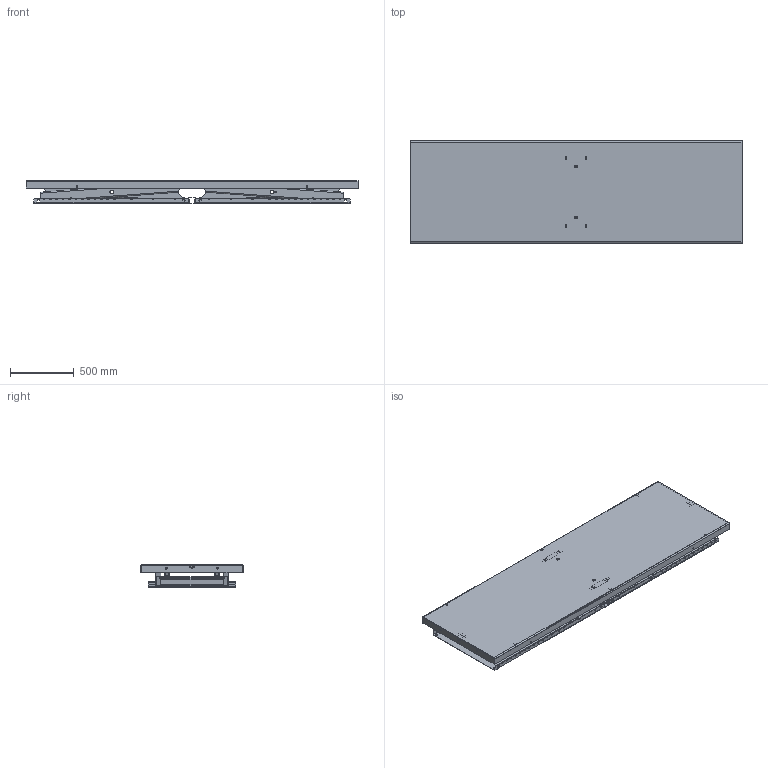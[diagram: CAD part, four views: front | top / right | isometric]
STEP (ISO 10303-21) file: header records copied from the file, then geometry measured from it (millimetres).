
FILE_DESCRIPTION(/* description */ ('TLH 2000 2600x800'),/* implementation_level */ '2;1');
FILE_NAME(/* name */ '\\EDMOFILE01\Users$\JOHSO\Desktop\32930_Collapsed.stp',/* time_stamp */ '2019-03-01T08:09:58+01:00',/* author */ ('johso'),/* organization */ (''),/* preprocessor_version */ 'ST-DEVELOPER v16.5',/* originating_system */ 'Autodesk Inventor 2017',/* authorisation */ '');
FILE_SCHEMA (('AUTOMOTIVE_DESIGN { 1 0 10303 214 3 1 1 }'));
Length unit declared in the file: millimetre
Products named in the file (22): 32930.tmp; 32931; 611364; 611365; 44681; 612229; 83751 - 685; 34977; 34977_1; 32903; 82154 - 490; 34827; 34815; 34816; 32086; 36411; 44771; 85955; 45258; 83567 - 114; 83212; 42394
Assembly tree (41 placements, depth 4):
  32930.tmp
    32931
      611364  x2
        611365
        45258
        44681
      612229
        83751 - 685
    34977
      32903
        82154 - 490
        34827  x2
      34815
        34816  x2
    34977_1
      32903
        82154 - 490
        34827  x2
      34815
        34816  x2
    32086
      36411
      44771  x2
      85955  x2
      45258  x4
      83567 - 114  x2
      83212  x6
      42394  x2
Bounding box: 2600 x 800 x 180 mm (x, y, z)
Volume: 28074318.2 mm3; surface area: 12018584.9 mm2
Topology: 40 solids, 40 shells, 1876 faces, 5212 edges, 3412 vertices
Faces by surface type: plane 952, cylinder 842, cone 46, bspline 36
Full cylindrical faces by diameter (mm): 5.55 x4, 6.8 x16, 7.4 x12, 8 x6, 10 x8, 10.2 x32, 10.5 x16, 11.63 x6, 12.5 x6, 13 x24, 13.835 x2, 18.5 x2, 19 x2, 20.1 x8, 30.2 x8, 42.8 x8
Entity records: 28718 total; most frequent: CARTESIAN_POINT 5526, DIRECTION 4743, ORIENTED_EDGE 4612, EDGE_CURVE 2306, AXIS2_PLACEMENT_3D 1618, VERTEX_POINT 1553, LINE 1507, VECTOR 1507
